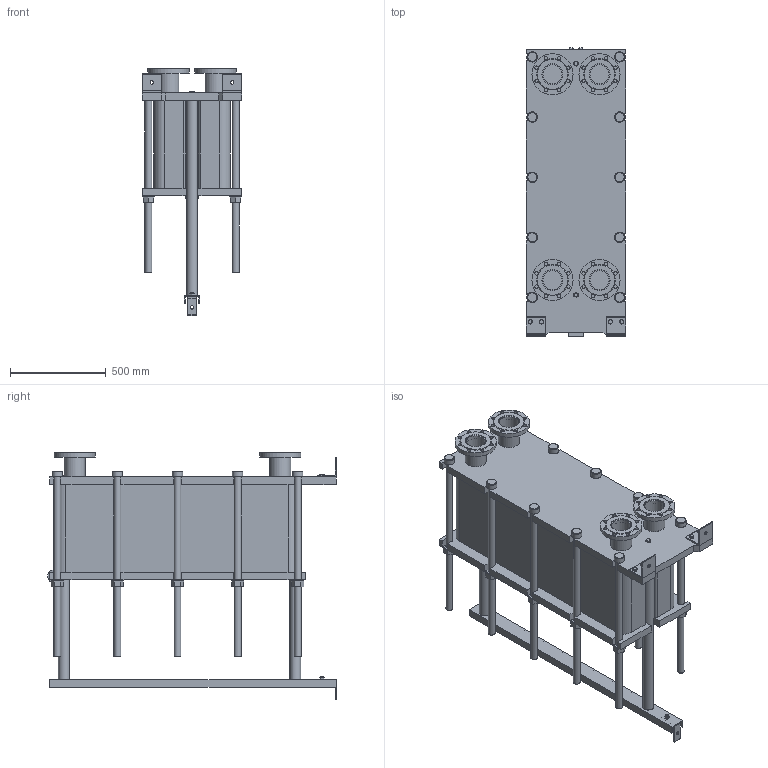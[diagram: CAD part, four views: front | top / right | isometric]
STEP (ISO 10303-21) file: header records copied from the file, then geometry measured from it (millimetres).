
FILE_DESCRIPTION(/* description */ (''),/* implementation_level */ '2;1');
FILE_NAME(/* name */ 'C:\Users\zhuro\Desktop\ENCO\TO\ЭН-04\ЭН-0,5-04-133-1.stp',/* time_stamp */ '2022-06-06T10:57:23+03:00',/* author */ ('zhuro'),/* organization */ (''),/* preprocessor_version */ 'ST-DEVELOPER v18.1',/* originating_system */ 'Autodesk Inventor 2022',/* authorisation */ '');
FILE_SCHEMA (('AUTOMOTIVE_DESIGN { 1 0 10303 214 3 1 1 }'));
Length unit declared in the file: millimetre
Products named in the file (1): ЭН-0,5-04-133-1
Bounding box: 520 x 1510 x 1296.5 mm (x, y, z)
Volume: 302295363.2 mm3; surface area: 9080935.1 mm2
Topology: 45 solids, 45 shells, 668 faces, 1611 edges, 1048 vertices
Faces by surface type: plane 457, cylinder 166, cone 39, torus 6
Full cylindrical faces by diameter (mm): 8 x4, 10 x2, 16 x8, 18 x35, 36 x25, 40 x2, 42 x1, 45 x4, 54 x10, 57 x2, 60 x10, 68 x2, 100 x4, 110 x8, 215 x4
Entity records: 23607 total; most frequent: CARTESIAN_POINT 7348, DIRECTION 3371, ORIENTED_EDGE 3142, EDGE_CURVE 1571, AXIS2_PLACEMENT_3D 1199, VERTEX_POINT 1044, LINE 973, VECTOR 973
